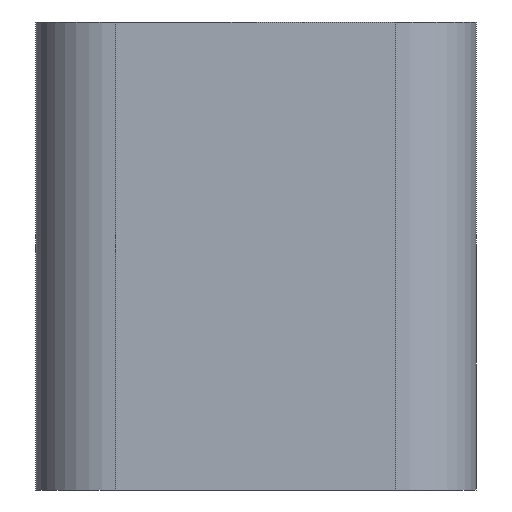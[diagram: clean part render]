
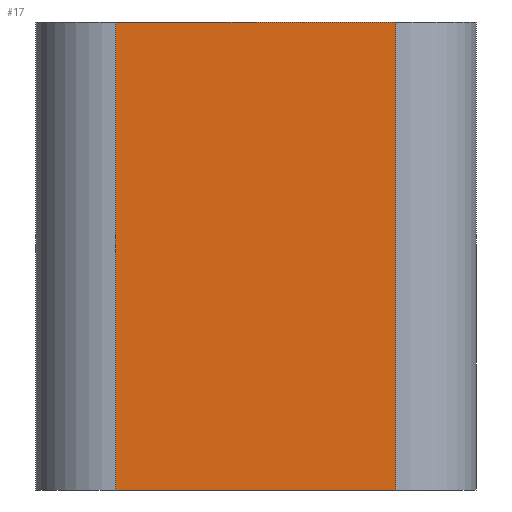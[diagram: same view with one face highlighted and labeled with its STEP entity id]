
A CAD part, left-side view. The second image highlights one B-rep face of the part: STEP entity #17.
In plain terms, the highlighted planar face has unit normal (-1, 0, 0).
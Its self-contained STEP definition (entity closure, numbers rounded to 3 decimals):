
#17 = ADVANCED_FACE('',(#18),#52,.F.);
#18 = FACE_BOUND('',#19,.F.);
#19 = EDGE_LOOP('',(#20,#30,#38,#46));
#20 = ORIENTED_EDGE('',*,*,#21,.F.);
#21 = EDGE_CURVE('',#22,#24,#26,.T.);
#22 = VERTEX_POINT('',#23);
#23 = CARTESIAN_POINT('',(-17.,-3.5,11.7));
#24 = VERTEX_POINT('',#25);
#25 = CARTESIAN_POINT('',(-17.,3.5,11.7));
#26 = LINE('',#27,#28);
#27 = CARTESIAN_POINT('',(-17.,-5.5,11.7));
#28 = VECTOR('',#29,1.);
#29 = DIRECTION('',(0.,1.,0.));
#30 = ORIENTED_EDGE('',*,*,#31,.F.);
#31 = EDGE_CURVE('',#32,#22,#34,.T.);
#32 = VERTEX_POINT('',#33);
#33 = CARTESIAN_POINT('',(-17.,-3.5,0.));
#34 = LINE('',#35,#36);
#35 = CARTESIAN_POINT('',(-17.,-3.5,0.));
#36 = VECTOR('',#37,1.);
#37 = DIRECTION('',(0.,0.,1.));
#38 = ORIENTED_EDGE('',*,*,#39,.T.);
#39 = EDGE_CURVE('',#32,#40,#42,.T.);
#40 = VERTEX_POINT('',#41);
#41 = CARTESIAN_POINT('',(-17.,3.5,0.));
#42 = LINE('',#43,#44);
#43 = CARTESIAN_POINT('',(-17.,-5.5,0.));
#44 = VECTOR('',#45,1.);
#45 = DIRECTION('',(0.,1.,0.));
#46 = ORIENTED_EDGE('',*,*,#47,.T.);
#47 = EDGE_CURVE('',#40,#24,#48,.T.);
#48 = LINE('',#49,#50);
#49 = CARTESIAN_POINT('',(-17.,3.5,0.));
#50 = VECTOR('',#51,1.);
#51 = DIRECTION('',(0.,0.,1.));
#52 = PLANE('',#53);
#53 = AXIS2_PLACEMENT_3D('',#54,#55,#56);
#54 = CARTESIAN_POINT('',(-17.,-5.5,0.));
#55 = DIRECTION('',(1.,0.,0.));
#56 = DIRECTION('',(0.,0.,1.));
